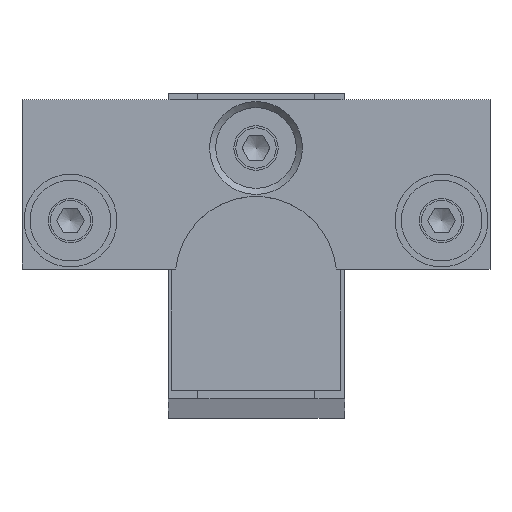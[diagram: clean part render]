
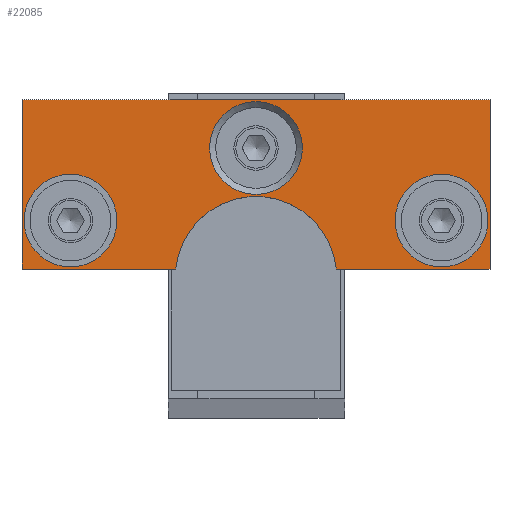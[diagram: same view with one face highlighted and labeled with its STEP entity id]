
A CAD part, top view. The second image highlights one B-rep face of the part: STEP entity #22085.
In plain terms, the highlighted planar face has unit normal (0, 0, 1).
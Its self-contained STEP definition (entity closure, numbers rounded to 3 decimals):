
#303=FACE_BOUND('',#2907,.T.);
#304=FACE_BOUND('',#2908,.T.);
#305=FACE_BOUND('',#2909,.T.);
#623=PLANE('',#23854);
#1610=FACE_OUTER_BOUND('',#2906,.T.);
#2906=EDGE_LOOP('',(#15270,#15271,#15272,#15273,#15274,#15275));
#2907=EDGE_LOOP('',(#15276));
#2908=EDGE_LOOP('',(#15277));
#2909=EDGE_LOOP('',(#15278));
#4575=LINE('',#37626,#5435);
#4576=LINE('',#37628,#5436);
#4577=LINE('',#37630,#5437);
#4578=LINE('',#37634,#5438);
#4579=LINE('',#37635,#5439);
#5435=VECTOR('',#28030,10.);
#5436=VECTOR('',#28031,10.);
#5437=VECTOR('',#28032,10.);
#5438=VECTOR('',#28035,10.);
#5439=VECTOR('',#28036,10.);
#6489=CIRCLE('',#23852,5.75);
#6491=CIRCLE('',#23855,10.);
#6492=CIRCLE('',#23856,5.75);
#6493=CIRCLE('',#23857,5.75);
#8675=VERTEX_POINT('',#37618);
#8677=VERTEX_POINT('',#37624);
#8678=VERTEX_POINT('',#37625);
#8679=VERTEX_POINT('',#37627);
#8680=VERTEX_POINT('',#37629);
#8681=VERTEX_POINT('',#37631);
#8682=VERTEX_POINT('',#37633);
#8683=VERTEX_POINT('',#37636);
#8684=VERTEX_POINT('',#37638);
#11290=EDGE_CURVE('',#8675,#8675,#6489,.T.);
#11293=EDGE_CURVE('',#8677,#8678,#4575,.T.);
#11294=EDGE_CURVE('',#8678,#8679,#4576,.T.);
#11295=EDGE_CURVE('',#8679,#8680,#4577,.T.);
#11296=EDGE_CURVE('',#8680,#8681,#6491,.T.);
#11297=EDGE_CURVE('',#8681,#8682,#4578,.T.);
#11298=EDGE_CURVE('',#8682,#8677,#4579,.T.);
#11299=EDGE_CURVE('',#8683,#8683,#6492,.T.);
#11300=EDGE_CURVE('',#8684,#8684,#6493,.T.);
#15270=ORIENTED_EDGE('',*,*,#11293,.T.);
#15271=ORIENTED_EDGE('',*,*,#11294,.T.);
#15272=ORIENTED_EDGE('',*,*,#11295,.T.);
#15273=ORIENTED_EDGE('',*,*,#11296,.T.);
#15274=ORIENTED_EDGE('',*,*,#11297,.T.);
#15275=ORIENTED_EDGE('',*,*,#11298,.T.);
#15276=ORIENTED_EDGE('',*,*,#11299,.F.);
#15277=ORIENTED_EDGE('',*,*,#11300,.F.);
#15278=ORIENTED_EDGE('',*,*,#11290,.F.);
#22085=ADVANCED_FACE('',(#1610,#303,#304,#305),#623,.T.);
#23852=AXIS2_PLACEMENT_3D('',#37619,#28023,#28024);
#23854=AXIS2_PLACEMENT_3D('',#37623,#28028,#28029);
#23855=AXIS2_PLACEMENT_3D('',#37632,#28033,#28034);
#23856=AXIS2_PLACEMENT_3D('',#37637,#28037,#28038);
#23857=AXIS2_PLACEMENT_3D('',#37639,#28039,#28040);
#28023=DIRECTION('center_axis',(0.,0.,
1.));
#28024=DIRECTION('ref_axis',(-1.,0.,0.));
#28028=DIRECTION('center_axis',(0.,0.,
1.));
#28029=DIRECTION('ref_axis',(1.,0.,0.));
#28030=DIRECTION('',(-1.,0.,0.));
#28031=DIRECTION('',(0.,-1.,0.));
#28032=DIRECTION('',(1.,0.,0.));
#28033=DIRECTION('center_axis',(0.,0.,
-1.));
#28034=DIRECTION('ref_axis',(0.995,0.1,0.));
#28035=DIRECTION('',(1.,0.,0.));
#28036=DIRECTION('',(0.,1.,0.));
#28037=DIRECTION('center_axis',(0.,0.,
1.));
#28038=DIRECTION('ref_axis',(-1.,0.,0.));
#28039=DIRECTION('center_axis',(0.,0.,
1.));
#28040=DIRECTION('ref_axis',(-1.,0.,0.));
#37618=CARTESIAN_POINT('',(39.65,22.,396.));
#37619=CARTESIAN_POINT('Origin',(33.9,22.,396.));
#37623=CARTESIAN_POINT('Origin',(10.9,27.153,396.));
#37624=CARTESIAN_POINT('',(39.9,37.,396.));
#37625=CARTESIAN_POINT('',(-18.1,37.,396.));
#37626=CARTESIAN_POINT('',(-18.1,37.,396.));
#37627=CARTESIAN_POINT('',(-18.1,16.,396.));
#37628=CARTESIAN_POINT('',(-18.1,16.,396.));
#37629=CARTESIAN_POINT('',(0.95,16.,396.));
#37630=CARTESIAN_POINT('',(0.95,16.,396.));
#37631=CARTESIAN_POINT('',(20.85,16.,396.));
#37632=CARTESIAN_POINT('Origin',(10.9,15.,396.));
#37633=CARTESIAN_POINT('',(39.9,16.,396.));
#37634=CARTESIAN_POINT('',(39.9,16.,396.));
#37635=CARTESIAN_POINT('',(39.9,37.,396.));
#37636=CARTESIAN_POINT('',(16.65,31.,396.));
#37637=CARTESIAN_POINT('Origin',(10.9,31.,396.));
#37638=CARTESIAN_POINT('',(-6.35,22.,396.));
#37639=CARTESIAN_POINT('Origin',(-12.1,22.,396.));
